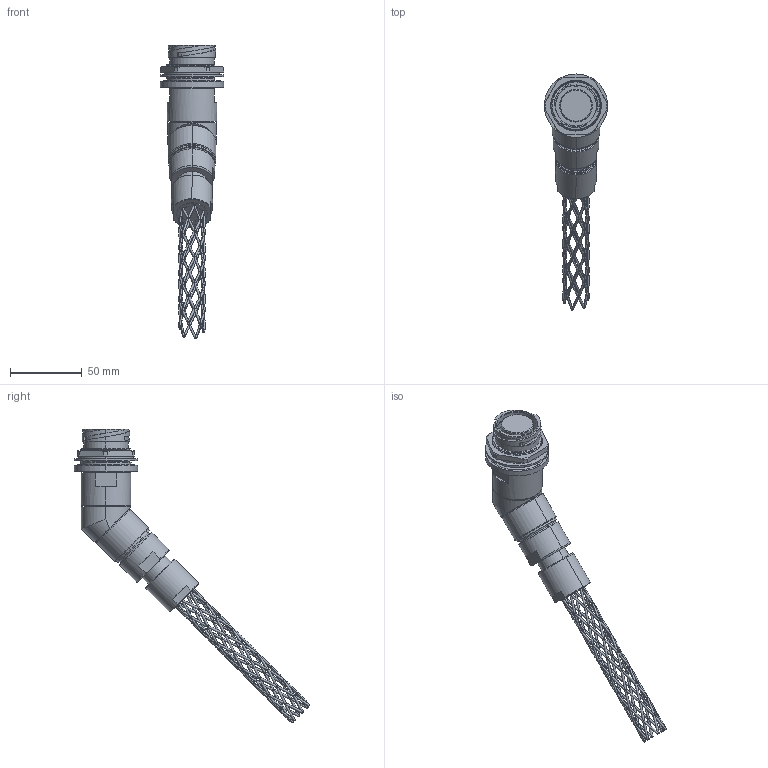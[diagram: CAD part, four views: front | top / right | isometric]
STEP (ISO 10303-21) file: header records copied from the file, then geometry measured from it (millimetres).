
FILE_DESCRIPTION (( 'STEP AP214' ), '1' );
FILE_NAME ('QLINK45-RJBX-19XX-GXXX-RA.STEP', '2025-12-17T16:31:04', ( '' ), ( '' ), 'SwSTEP 2.0', 'SolidWorks 2024', '' );
FILE_SCHEMA (( 'AUTOMOTIVE_DESIGN' ));
Length unit declared in the file: millimetre
Products named in the file (1): QLINK45-RJBX-19XX-GXXX-RA
Bounding box: 44.2 x 164 x 204.47 mm (x, y, z)
Volume: 114727.8 mm3; surface area: 34500.8 mm2
Topology: 2 solids, 2 shells, 494 faces, 1374 edges, 793 vertices
Faces by surface type: bspline 266, cylinder 89, plane 67, cone 49, torus 23
Entity records: 120155 total; most frequent: CARTESIAN_POINT 110617, ORIENTED_EDGE 2746, EDGE_CURVE 1373, DIRECTION 1244, VERTEX_POINT 793, AXIS2_PLACEMENT_3D 529, EDGE_LOOP 522, ADVANCED_FACE 494
